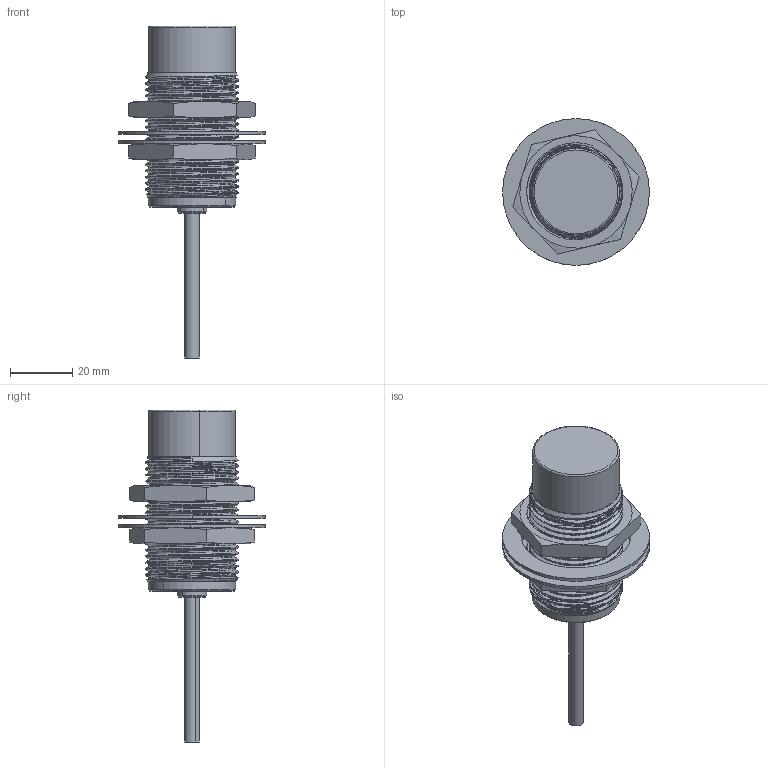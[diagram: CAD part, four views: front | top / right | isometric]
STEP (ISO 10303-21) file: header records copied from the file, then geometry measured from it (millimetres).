
FILE_DESCRIPTION (( 'STEP AP214' ), '1' );
FILE_NAME ('SN30-D-GX.STEP', '2025-09-25T07:07:21', ( 'Windows User' ), ( 'P R C' ), 'SwSTEP 2.0', 'SolidWorks 2023', '' );
FILE_SCHEMA (( 'AUTOMOTIVE_DESIGN' ));
Length unit declared in the file: millimetre
Products named in the file (8): SD1100253-铜壳(M30X1.5X40)全螺纹-非埋入-B1; SD2007127-M30非埋入前塞Ф26.6X14.9（黑色）-ROHS; M30螺母; SN30-D-GX; GX 30 后塞; 4.8导线; LED; M30垫片
Assembly tree (9 placements, depth 2):
  SN30-D-GX
    SD1100253-铜壳(M30X1.5X40)全螺纹-非埋入-B1
    GX 30 后塞
    SD2007127-M30非埋入前塞Ф26.6X14.9（黑色）-ROHS
    4.8导线
    LED
    M30垫片  x2
    M30螺母  x2
Bounding box: 47 x 47 x 106.3 mm (x, y, z)
Volume: 15117.7 mm3; surface area: 26453.6 mm2
Topology: 9 solids, 9 shells, 206 faces, 474 edges, 294 vertices
Faces by surface type: cylinder 96, plane 45, torus 34, cone 22, bspline 9
Entity records: 10785 total; most frequent: CARTESIAN_POINT 6999, ORIENTED_EDGE 770, DIRECTION 724, EDGE_CURVE 385, AXIS2_PLACEMENT_3D 299, VERTEX_POINT 239, EDGE_LOOP 184, ADVANCED_FACE 168
